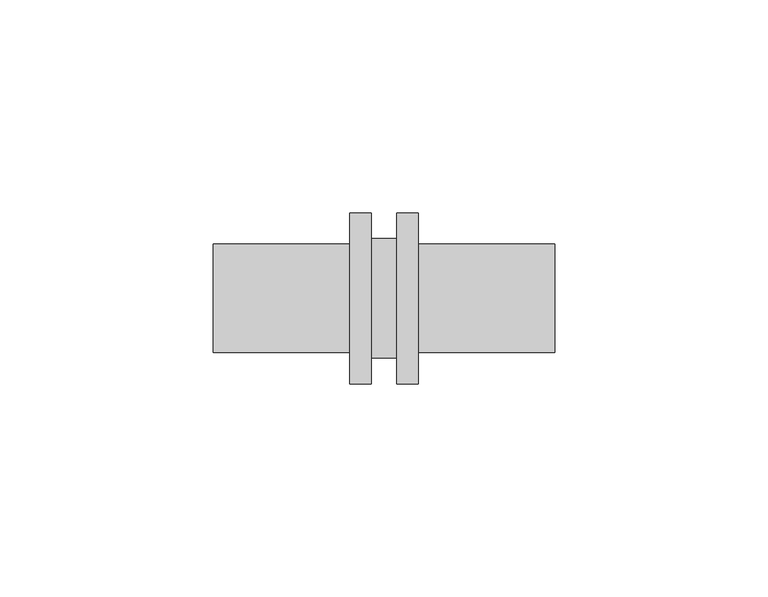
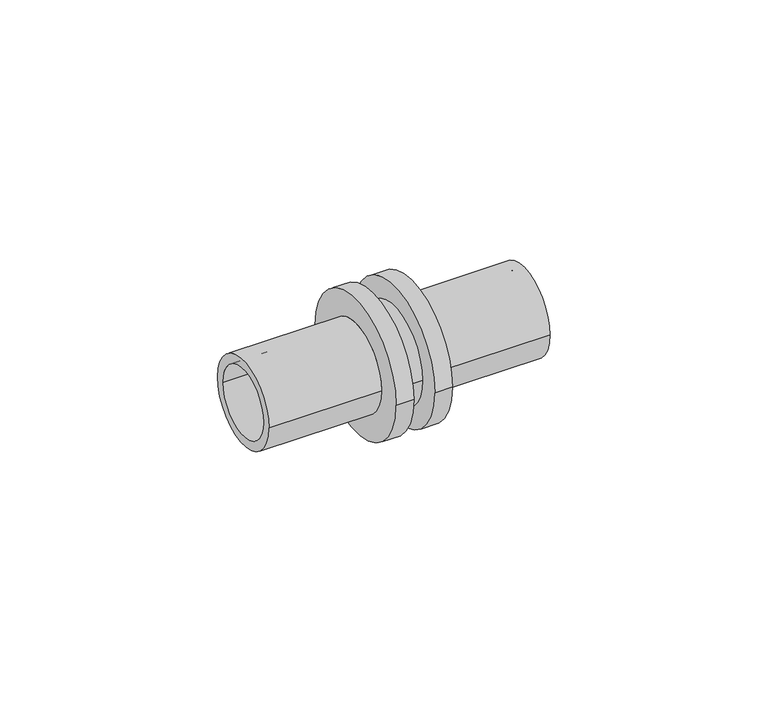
"""IFC4 building model written with IfcOpenShell, lengths in millimetres: pipe fitting geometry, RAUTITAN_Union_LX : RTI LX U DE."""

from ifc_helpers import new_model, si_unit, frame, origin, place, context, project, spatial, polyline, circle_curve, source, transform, mapped, element, save
from ifc_brep_helpers import plane_surface, cylinder_surface, revolved_surface, advanced_brep


def pipe_fitting_afe3fb24(model_context):
    return source(origin(), model_context, "Body", "AdvancedBrep", [
        advanced_brep(
        [(-40.0, 10.0, 0.0), (-40.0, -10.0, 0.0), (40.0, -10.0, 0.0), (40.0, 10.0, 0.0), (-8.0, 12.7, 0.0), (-8.0, -12.7, 0.0), (-40.0, -12.7, 0.0), (-40.0, 12.7, 0.0), (-3.0, 20.0, 0.0), (-3.0, -20.0, 0.0), (-8.0, -20.0, 0.0), (-8.0, 20.0, 0.0), (3.0, 14.0, 0.0), (3.0, -14.0, 0.0), (-3.0, -14.0, 0.0), (-3.0, 14.0, 0.0), (8.0, 20.0, 0.0), (8.0, -20.0, 0.0), (3.0, -20.0, 0.0), (3.0, 20.0, 0.0), (40.0, 12.7, 0.0), (40.0, -12.7, 0.0), (8.0, -12.7, 0.0), (8.0, 12.7, 0.0)],
        [
            (0, 1, circle_curve(frame((-40.0, 0.0, 0.0), z_axis=(-1.0, 0.0, 0.0), x_axis=(0.0, -1.0, 0.0)), 10.0)),
            (1, 2),
            (2, 3, circle_curve(frame((40.0, 0.0, 0.0), z_axis=(1.0, 0.0, 0.0), x_axis=(0.0, -1.0, 0.0)), 10.0)),
            (3, 0),
            (4, 5, circle_curve(frame((-8.0, 0.0, 0.0), z_axis=(-1.0, 0.0, 0.0), x_axis=(0.0, -1.0, 0.0)), 12.7)),
            (5, 6),
            (6, 7, circle_curve(frame((-40.0, 0.0, 0.0), z_axis=(1.0, 0.0, 0.0), x_axis=(0.0, -1.0, 0.0)), 12.7)),
            (7, 4),
            (8, 9, circle_curve(frame((-3.0, 0.0, 0.0), z_axis=(-1.0, 0.0, 0.0), x_axis=(0.0, -1.0, 0.0)), 20.0)),
            (9, 10),
            (10, 11, circle_curve(frame((-8.0, 0.0, 0.0), z_axis=(1.0, 0.0, 0.0), x_axis=(0.0, -1.0, 0.0)), 20.0)),
            (11, 8),
            (12, 13, circle_curve(frame((3.0, 0.0, 0.0), z_axis=(-1.0, 0.0, 0.0), x_axis=(0.0, -1.0, 0.0)), 14.0)),
            (13, 14),
            (14, 15, circle_curve(frame((-3.0, 0.0, 0.0), z_axis=(1.0, 0.0, 0.0), x_axis=(0.0, -1.0, 0.0)), 14.0)),
            (15, 12),
            (16, 17, circle_curve(frame((8.0, 0.0, 0.0), z_axis=(-1.0, 0.0, 0.0), x_axis=(0.0, -1.0, 0.0)), 20.0)),
            (17, 18),
            (18, 19, circle_curve(frame((3.0, 0.0, 0.0), z_axis=(1.0, 0.0, 0.0), x_axis=(0.0, -1.0, 0.0)), 20.0)),
            (19, 16),
            (20, 21, circle_curve(frame((40.0, 0.0, 0.0), z_axis=(-1.0, 0.0, 0.0), x_axis=(0.0, -1.0, 0.0)), 12.7)),
            (21, 22),
            (22, 23, circle_curve(frame((8.0, 0.0, 0.0), z_axis=(1.0, 0.0, 0.0), x_axis=(0.0, -1.0, 0.0)), 12.7)),
            (23, 20),
            (1, 0, circle_curve(frame((-40.0, 0.0, 0.0), z_axis=(-1.0, 0.0, 0.0), x_axis=(0.0, 1.0, 0.0)), 10.0)),
            (3, 2, circle_curve(frame((40.0, 0.0, 0.0), z_axis=(1.0, 0.0, 0.0), x_axis=(0.0, 1.0, 0.0)), 10.0)),
            (6, 7, circle_curve(frame((-40.0, 0.0, 0.0), z_axis=(-1.0, 0.0, 0.0), x_axis=(0.0, 1.0, 0.0)), 12.7)),
            (5, 4, circle_curve(frame((-8.0, 0.0, 0.0), z_axis=(-1.0, 0.0, 0.0), x_axis=(0.0, 1.0, 0.0)), 12.7)),
            (10, 11, circle_curve(frame((-8.0, 0.0, 0.0), z_axis=(-1.0, 0.0, 0.0), x_axis=(0.0, 1.0, 0.0)), 20.0)),
            (9, 8, circle_curve(frame((-3.0, 0.0, 0.0), z_axis=(-1.0, 0.0, 0.0), x_axis=(0.0, 1.0, 0.0)), 20.0)),
            (14, 15, circle_curve(frame((-3.0, 0.0, 0.0), z_axis=(-1.0, 0.0, 0.0), x_axis=(0.0, 1.0, 0.0)), 14.0)),
            (13, 12, circle_curve(frame((3.0, 0.0, 0.0), z_axis=(-1.0, 0.0, 0.0), x_axis=(0.0, 1.0, 0.0)), 14.0)),
            (18, 19, circle_curve(frame((3.0, 0.0, 0.0), z_axis=(-1.0, 0.0, 0.0), x_axis=(0.0, 1.0, 0.0)), 20.0)),
            (17, 16, circle_curve(frame((8.0, 0.0, 0.0), z_axis=(-1.0, 0.0, 0.0), x_axis=(0.0, 1.0, 0.0)), 20.0)),
            (22, 23, circle_curve(frame((8.0, 0.0, 0.0), z_axis=(-1.0, 0.0, 0.0), x_axis=(0.0, 1.0, 0.0)), 12.7)),
            (21, 20, circle_curve(frame((40.0, 0.0, 0.0), z_axis=(-1.0, 0.0, 0.0), x_axis=(0.0, 1.0, 0.0)), 12.7)),
        ],
        [
            revolved_surface(polyline([(40.0, -10.0, 0.0), (-40.0, -10.0, 0.0)]), (0.0, 0.0, 0.0), (1.0, 0.0, 0.0)),
            cylinder_surface(frame((0.0, 0.0, 0.0), z_axis=(1.0, 0.0, 0.0), x_axis=(0.0, -1.0, 0.0)), 12.7),
            cylinder_surface(frame((0.0, 0.0, 0.0), z_axis=(1.0, 0.0, 0.0), x_axis=(0.0, -1.0, 0.0)), 20.0),
            cylinder_surface(frame((0.0, 0.0, 0.0), z_axis=(1.0, 0.0, 0.0), x_axis=(0.0, -1.0, 0.0)), 14.0),
            revolved_surface(polyline([(40.0, 10.0, 0.0), (-40.0, 10.0, 0.0)]), (0.0, 0.0, 0.0), (1.0, 0.0, 0.0)),
            plane_surface(frame((-40.0, 0.0, 0.0), z_axis=(-1.0, 0.0, 0.0), x_axis=(0.0, 1.0, 0.0))),
            cylinder_surface(frame((0.0, 0.0, 0.0), z_axis=(1.0, 0.0, 0.0), x_axis=(0.0, 1.0, 0.0)), 12.7),
            plane_surface(frame((-8.0, 0.0, 0.0), z_axis=(-1.0, 0.0, 0.0), x_axis=(0.0, 1.0, 0.0))),
            cylinder_surface(frame((0.0, 0.0, 0.0), z_axis=(1.0, 0.0, 0.0), x_axis=(0.0, 1.0, 0.0)), 20.0),
            plane_surface(frame((-3.0, 0.0, 0.0), z_axis=(1.0, 0.0, 0.0), x_axis=(0.0, 1.0, 0.0))),
            cylinder_surface(frame((0.0, 0.0, 0.0), z_axis=(1.0, 0.0, 0.0), x_axis=(0.0, 1.0, 0.0)), 14.0),
            plane_surface(frame((3.0, 0.0, 0.0), z_axis=(-1.0, 0.0, 0.0), x_axis=(0.0, 1.0, 0.0))),
            plane_surface(frame((8.0, 0.0, 0.0), z_axis=(1.0, 0.0, 0.0), x_axis=(0.0, 1.0, 0.0))),
            plane_surface(frame((40.0, 0.0, 0.0), z_axis=(1.0, 0.0, 0.0), x_axis=(0.0, 1.0, 0.0))),
        ],
        [
            (0, [[1, 2, 3, 4]]),
            (1, [[5, 6, 7, 8]]),
            (2, [[9, 10, 11, 12]]),
            (3, [[13, 14, 15, 16]]),
            (2, [[17, 18, 19, 20]]),
            (1, [[21, 22, 23, 24]]),
            (4, [[25, -4, 26, -2]]),
            (5, [[27, -7], [-25, -1]]),
            (6, [[28, -8, -27, -6]]),
            (7, [[29, -11], [-28, -5]]),
            (8, [[30, -12, -29, -10]]),
            (9, [[-30, -9], [31, -15]]),
            (10, [[32, -16, -31, -14]]),
            (11, [[33, -19], [-32, -13]]),
            (8, [[34, -20, -33, -18]]),
            (12, [[-34, -17], [35, -23]]),
            (6, [[36, -24, -35, -22]]),
            (13, [[-36, -21], [-26, -3]]),
        ],
    ),
    ])


if __name__ == "__main__":
    model = new_model("IFC4")
    model_context = context("Model", 3, world=origin())
    ifc_project = project(units=[si_unit("LENGTHUNIT", "METRE", prefix="MILLI")], contexts=[model_context])
    site = spatial("IfcSite", under=ifc_project)
    building = spatial("IfcBuilding", under=site)
    placement = place(None, origin())
    pipe_fitting_shape = pipe_fitting_afe3fb24(model_context)
    element("IfcPipeFitting", 1, ObjectType="RAUTITAN_Union_LX : RTI LX U DE", at=placement, inside=building, context=model_context, shape_type="MappedRepresentation", body=[
        mapped(pipe_fitting_shape, transform((0.0, 0.0, 0.0), x_axis=(1.0, 0.0, 0.0), y_axis=(0.0, 1.0, 0.0), z_axis=(0.0, 0.0, 1.0))),
    ])
    save(model, "model.ifc")
